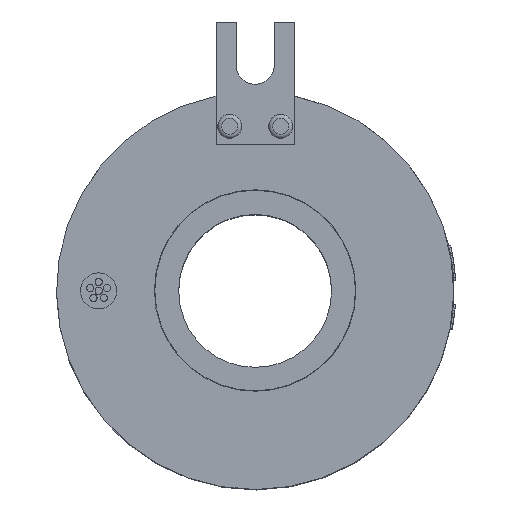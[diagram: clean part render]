
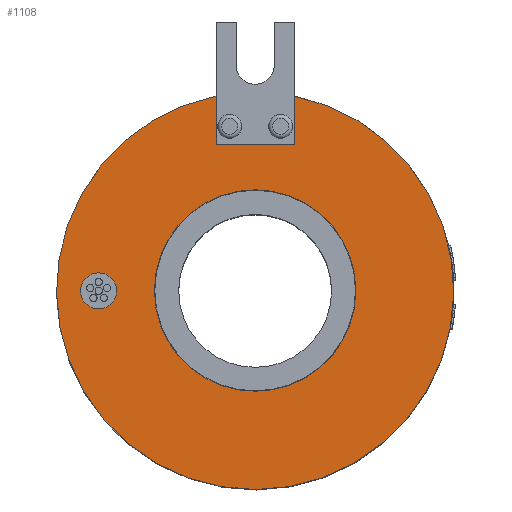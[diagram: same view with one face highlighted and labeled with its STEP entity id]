
A CAD part, top view. The second image highlights one B-rep face of the part: STEP entity #1108.
In plain terms, the highlighted planar face has unit normal (0, 0, 1).
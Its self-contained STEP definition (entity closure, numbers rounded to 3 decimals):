
#184=FACE_BOUND('',#2209,.T.);
#185=FACE_BOUND('',#2210,.T.);
#186=FACE_BOUND('',#2211,.T.);
#342=CIRCLE('',#6841,49.5);
#357=CIRCLE('',#6865,4.5);
#358=CIRCLE('',#6866,25.1);
#664=PLANE('',#6867);
#823=LINE('',#30316,#1526);
#824=LINE('',#30318,#1527);
#825=LINE('',#30320,#1528);
#1108=ADVANCED_FACE('',(#184,#185,#186),#664,.T.);
#1526=VECTOR('',#7840,1.);
#1527=VECTOR('',#7841,1.);
#1528=VECTOR('',#7842,1.);
#2209=EDGE_LOOP('',(#3703));
#2210=EDGE_LOOP('',(#3704));
#2211=EDGE_LOOP('',(#3705,#3706,#3707,#3708));
#3703=ORIENTED_EDGE('',*,*,#5709,.T.);
#3704=ORIENTED_EDGE('',*,*,#5710,.F.);
#3705=ORIENTED_EDGE('',*,*,#5711,.F.);
#3706=ORIENTED_EDGE('',*,*,#5671,.T.);
#3707=ORIENTED_EDGE('',*,*,#5712,.F.);
#3708=ORIENTED_EDGE('',*,*,#5713,.F.);
#4777=VERTEX_POINT('',#29771);
#4778=VERTEX_POINT('',#29772);
#4815=VERTEX_POINT('',#30313);
#4816=VERTEX_POINT('',#30315);
#4817=VERTEX_POINT('',#30317);
#4818=VERTEX_POINT('',#30319);
#5671=EDGE_CURVE('',#4778,#4777,#342,.T.);
#5709=EDGE_CURVE('',#4815,#4815,#357,.T.);
#5710=EDGE_CURVE('',#4816,#4816,#358,.T.);
#5711=EDGE_CURVE('',#4778,#4817,#823,.T.);
#5712=EDGE_CURVE('',#4818,#4777,#824,.T.);
#5713=EDGE_CURVE('',#4817,#4818,#825,.T.);
#6841=AXIS2_PLACEMENT_3D('',#29773,#7773,#7774);
#6865=AXIS2_PLACEMENT_3D('',#30312,#7836,#7837);
#6866=AXIS2_PLACEMENT_3D('',#30314,#7838,#7839);
#6867=AXIS2_PLACEMENT_3D('',#30321,#7843,#7844);
#7773=DIRECTION('',(0.,0.,1.));
#7774=DIRECTION('',(1.,0.,0.));
#7836=DIRECTION('',(0.,0.,-1.));
#7837=DIRECTION('',(1.,0.,0.));
#7838=DIRECTION('',(0.,0.,1.));
#7839=DIRECTION('',(1.,0.,0.));
#7840=DIRECTION('',(0.,-1.,0.));
#7841=DIRECTION('',(0.,1.,0.));
#7842=DIRECTION('',(1.,0.,0.));
#7843=DIRECTION('',(0.,0.,1.));
#7844=DIRECTION('',(-1.,0.,0.));
#29771=CARTESIAN_POINT('',(9.75,48.53,75.5));
#29772=CARTESIAN_POINT('',(-9.75,48.53,75.5));
#29773=CARTESIAN_POINT('',(0.,0.,75.5));
#30312=CARTESIAN_POINT('',(-39.,0.,75.5));
#30313=CARTESIAN_POINT('',(-34.5,0.,75.5));
#30314=CARTESIAN_POINT('',(0.,0.09,75.5));
#30315=CARTESIAN_POINT('',(25.1,0.09,75.5));
#30316=CARTESIAN_POINT('',(-9.75,67.,75.5));
#30317=CARTESIAN_POINT('',(-9.75,36.5,75.5));
#30318=CARTESIAN_POINT('',(9.75,36.5,75.5));
#30319=CARTESIAN_POINT('',(9.75,36.5,75.5));
#30320=CARTESIAN_POINT('',(-9.75,36.5,75.5));
#30321=CARTESIAN_POINT('',(0.,0.,75.5));
